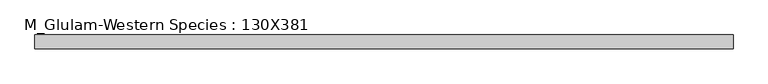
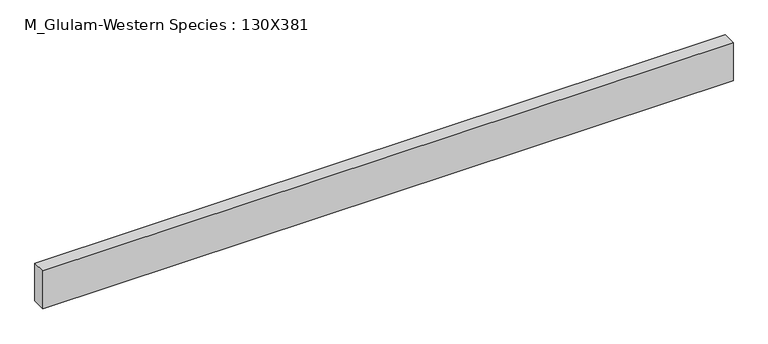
"""IFC4 building model written with IfcOpenShell, lengths in millimetres: beam geometry, M_Glulam-Western Species : 130X381."""

from ifc_helpers import new_model, si_unit, frame, origin, place, context, project, spatial, polyline, outline, extrude, source, transform, mapped, element, save


def m_glulam_western_species_130x381_46f986f1(model_context):
    return source(origin(), model_context, "Body", "SweptSolid", [
        extrude(outline(polyline([(3280.5, 65.0), (3280.5, -65.0), (-3280.5, -65.0), (-3280.5, 65.0), (3280.5, 65.0)])), frame((0.0, 0.0, -190.5), z_axis=(0.0, 0.0, 1.0), x_axis=(1.0, 0.0, 0.0)), (0.0, 0.0, 1.0), 381.0),
    ])


if __name__ == "__main__":
    model = new_model("IFC4")
    model_context = context("Model", 3, world=origin())
    ifc_project = project(units=[si_unit("LENGTHUNIT", "METRE", prefix="MILLI")], contexts=[model_context])
    site = spatial("IfcSite", under=ifc_project)
    building = spatial("IfcBuilding", under=site)
    placement = place(None, origin())
    m_glulam_western_species_130x381_shape = m_glulam_western_species_130x381_46f986f1(model_context)
    element("IfcBeam", 1, ObjectType="M_Glulam-Western Species : 130X381", at=placement, inside=building, context=model_context, shape_type="MappedRepresentation", body=[
        mapped(m_glulam_western_species_130x381_shape, transform((0.0, 0.0, 0.0), x_axis=(1.0, 0.0, 0.0), y_axis=(0.0, 1.0, 0.0), z_axis=(0.0, 0.0, 1.0))),
    ])
    save(model, "model.ifc")
